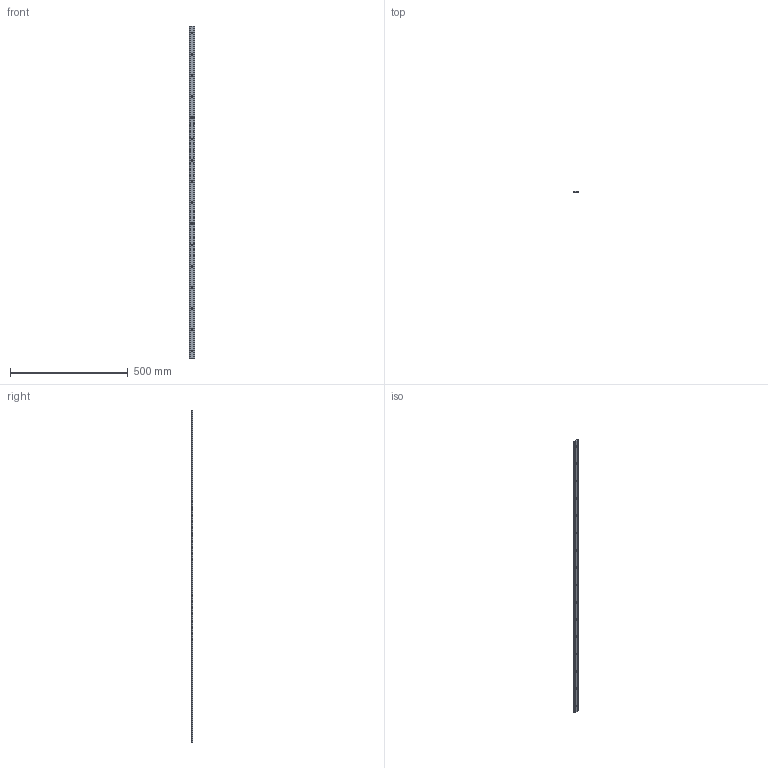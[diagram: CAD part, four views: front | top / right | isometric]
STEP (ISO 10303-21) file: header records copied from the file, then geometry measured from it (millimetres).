
FILE_DESCRIPTION(('STEP AP203'),'1');
FILE_NAME('//192.168.1.1/share/s-4 技術開発/s-4-4_CAD/s-4-4-6_見直し、確認済み/014 修正済み(済)/GF_TOP/GF-25N-1410.step','2022-03-14T00:47:39',(' '),(' '),'Spatial InterOp 3D',' ',' ');
FILE_SCHEMA(('CONFIG_CONTROL_DESIGN'));
Length unit declared in the file: millimetre
Products named in the file (1): 1
Bounding box: 24.94 x 5.18 x 1410 mm (x, y, z)
Volume: 156195.5 mm3; surface area: 79414.6 mm2
Topology: 1 solids, 1 shells, 66 faces, 176 edges, 112 vertices
Faces by surface type: cone 32, cylinder 20, plane 14
Full cylindrical faces by diameter (mm): 7 x16
Entity records: 1788 total; most frequent: DIRECTION 318, CARTESIAN_POINT 275, ORIENTED_EDGE 224, EDGE_LOOP 146, AXIS2_PLACEMENT_3D 139, EDGE_CURVE 112, VERTEX_POINT 96, FACE_OUTER_BOUND 82
